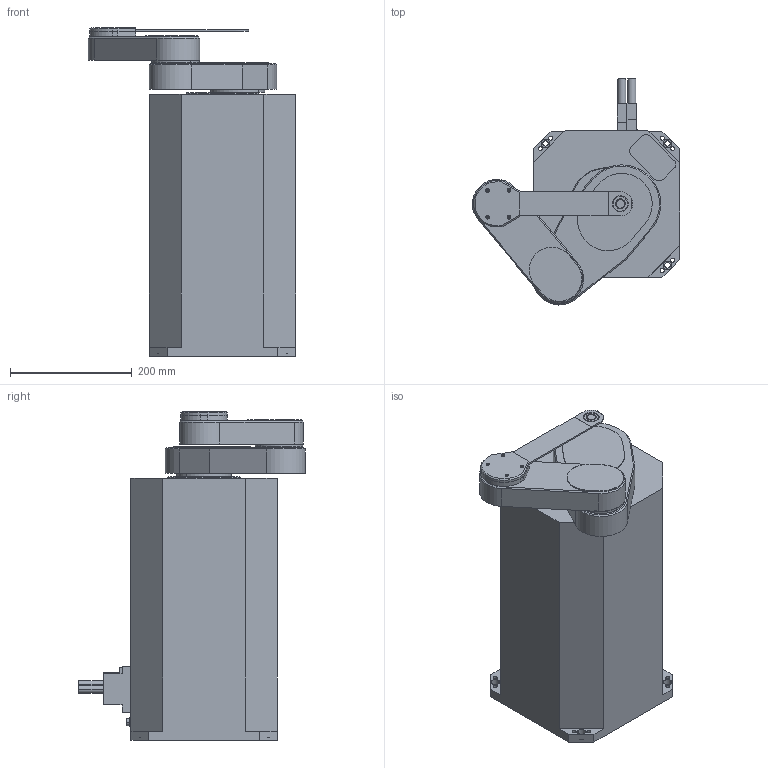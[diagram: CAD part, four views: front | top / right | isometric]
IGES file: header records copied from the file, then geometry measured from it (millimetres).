
Global section: file name: No Iges File Name specified; native system: Autodesk Inventor 2011; preprocessor: AutoDesk Inventor Iges Exporter R2011; author: a-yamamoto; date: 20110909.084452; units: millimetre
Bounding box: 340 x 371.35 x 539.2 mm (x, y, z)
Volume: 24600053.7 mm3; surface area: 936182.3 mm2
Topology: 9 solids, 9 shells, 347 faces, 843 edges, 550 vertices
Faces by surface type: plane 168, bspline 83, cylinder 53, revolution 33, cone 10
